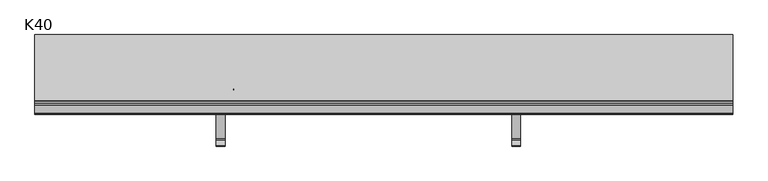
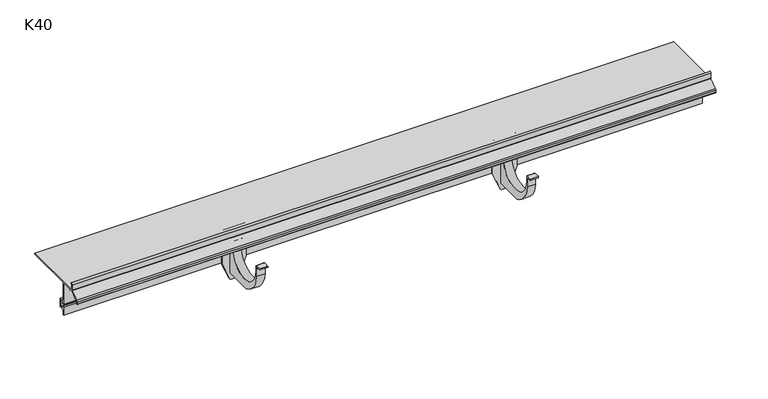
"""IFC4 building model written with IfcOpenShell, lengths in millimetres: proxy geometry, K40 Profil okapowy prosty z rynną : K40."""

from ifc_helpers import new_model, si_unit, point, frame, frame_2d, origin, place, context, project, spatial, polyline, circle_curve, trimmed, segment, composite_curve, outline, extrude, source, transform, mapped, element, save
from ifc_brep_helpers import plane_surface, cylinder_surface, revolved_surface, advanced_brep


def k40_60f0cadf(model_context):
    return source(origin(), model_context, "Body", "SolidModel", [
        advanced_brep(
        [(806.4889281, -60.209027, -47.7247657), (806.4889281, 14.790973, -47.7247657), (806.4889281, 16.790973, -28.8318799), (806.4889281, 11.3767594, -29.4176589), (806.4889281, 9.9625459, -30.8318724), (806.4889281, 8.5483323, -29.4176589), (806.4889281, 9.9625459, -28.0034453), (806.4889281, 12.790973, -26.8318724), (806.4889281, 22.790973, -26.8318724), (806.4889281, 22.790973, -101.8318724), (806.4889281, -28.209027, -101.8322949), (806.4889281, -62.709027, -57.0416645), (806.4889281, -62.709027, -42.4216441), (806.4889281, -62.709027, -38.8322949), (806.4889281, -71.209027, -38.8322949), (806.4889281, -71.209027, -36.8322949), (806.4889281, -61.209027, -36.8322949), (806.4889281, -60.209027, -37.8322949), (821.4889281, -60.209027, -47.7247657), (821.4889281, -60.209027, -37.8322949), (821.4889281, -61.209027, -36.8322949), (821.4889281, -71.209027, -36.8322949), (821.4889281, -71.209027, -38.8322949), (821.4889281, -62.709027, -38.8322949), (821.4889281, -62.709027, -42.4216441), (821.4889281, -62.709027, -57.0416645), (821.4889281, -28.209027, -101.8322949), (821.4889281, 22.790973, -101.8318724), (821.4889281, 22.790973, -26.8318724), (821.4889281, 12.790973, -26.8318724), (821.4889281, 9.9625459, -28.0034453), (821.4889281, 8.5483323, -29.4176589), (821.4889281, 9.9625459, -30.8318724), (821.4889281, 11.3767594, -29.4176589), (821.4889281, 16.790973, -28.8318799), (821.4889281, 14.790973, -47.7247657), (833.4889281, 22.790973, -13.8318724), (794.4889281, 22.790973, -13.8318724), (791.4889281, 22.790973, -16.8318724), (791.4889281, 22.790973, -78.8318724), (805.7196973, 22.790973, -112.9857186), (808.4889281, 22.790973, -114.8318724), (819.4889281, 22.790973, -114.8318724), (822.2581588, 22.790973, -112.9857186), (836.4889281, 22.790973, -78.8318724), (836.4889281, 22.790973, -16.8318724), (833.4889281, 24.790973, -13.8318724), (836.4889281, 24.790973, -16.8318724), (836.4889281, 24.790973, -78.8318724), (822.2581588, 24.790973, -112.9857186), (819.4889281, 24.790973, -114.8318724), (808.4889281, 24.790973, -114.8318724), (805.7196973, 24.790973, -112.9857186), (791.4889281, 24.790973, -78.8318724), (791.4889281, 24.790973, -16.8318724), (794.4889281, 24.790973, -13.8318724)],
        [
            (0, 1, circle_curve(frame((806.4889281, -22.709027, -47.7247657), z_axis=(1.0, 0.0, 0.0), x_axis=(0.0, -1.0, 0.0)), 37.5)),
            (1, 2),
            (2, 3, circle_curve(frame((806.4889281, 15.9516361, -46.3881144), z_axis=(1.0, 0.0, 0.0), x_axis=(0.0, -1.0, 0.0)), 17.5762868)),
            (3, 4),
            (4, 5, circle_curve(frame((806.4889281, 9.2554391, -30.1247657), z_axis=(-1.0, 0.0, 0.0), x_axis=(0.0, -1.0, 0.0)), 1.0)),
            (5, 6),
            (6, 7, circle_curve(frame((806.4889281, 12.790973, -30.8318724), z_axis=(-1.0, 0.0, 0.0), x_axis=(0.0, -1.0, 0.0)), 4.0)),
            (7, 8),
            (8, 9),
            (9, 10),
            (10, 11, circle_curve(frame((806.4889281, -10.0286874, -52.1467472), z_axis=(-1.0, 0.0, 0.0), x_axis=(0.0, -1.0, 0.0)), 52.9072622)),
            (11, 12),
            (12, 13),
            (13, 14),
            (14, 15, circle_curve(frame((806.4889281, -71.209027, -37.8322949), z_axis=(-1.0, 0.0, 0.0), x_axis=(0.0, -1.0, 0.0)), 1.0)),
            (15, 16),
            (16, 17, circle_curve(frame((806.4889281, -61.209027, -37.8322949), z_axis=(-1.0, 0.0, 0.0), x_axis=(0.0, -1.0, 0.0)), 1.0)),
            (17, 0),
            (18, 19),
            (19, 20, circle_curve(frame((821.4889281, -61.209027, -37.8322949), z_axis=(1.0, 0.0, 0.0), x_axis=(0.0, -1.0, 0.0)), 1.0)),
            (20, 21),
            (21, 22, circle_curve(frame((821.4889281, -71.209027, -37.8322949), z_axis=(1.0, 0.0, 0.0), x_axis=(0.0, -1.0, 0.0)), 1.0)),
            (22, 23),
            (23, 24),
            (24, 25),
            (25, 26, circle_curve(frame((821.4889281, -10.0286874, -52.1467472), z_axis=(1.0, 0.0, 0.0), x_axis=(0.0, -1.0, 0.0)), 52.9072622)),
            (26, 27),
            (27, 28),
            (28, 29),
            (29, 30, circle_curve(frame((821.4889281, 12.790973, -30.8318724), z_axis=(1.0, 0.0, 0.0), x_axis=(0.0, -1.0, 0.0)), 4.0)),
            (30, 31),
            (31, 32, circle_curve(frame((821.4889281, 9.2554391, -30.1247657), z_axis=(1.0, 0.0, 0.0), x_axis=(0.0, -1.0, 0.0)), 1.0)),
            (32, 33),
            (33, 34, circle_curve(frame((821.4889281, 15.9516361, -46.3881144), z_axis=(-1.0, 0.0, 0.0), x_axis=(0.0, -1.0, 0.0)), 17.5762868)),
            (34, 35),
            (35, 18, circle_curve(frame((821.4889281, -22.709027, -47.7247657), z_axis=(-1.0, 0.0, 0.0), x_axis=(0.0, -1.0, 0.0)), 37.5)),
            (17, 19),
            (18, 0),
            (16, 20),
            (15, 21),
            (14, 22),
            (13, 23),
            (12, 24),
            (11, 25),
            (10, 26),
            (9, 27),
            (7, 29),
            (28, 8),
            (6, 30),
            (5, 31),
            (4, 32),
            (3, 33),
            (2, 34),
            (1, 35),
            (36, 37),
            (37, 38, circle_curve(frame((794.4889281, 22.790973, -16.8318724), z_axis=(0.0, -1.0, 0.0), x_axis=(1.0, 0.0, 0.0)), 3.0)),
            (38, 39),
            (39, 40),
            (40, 41, circle_curve(frame((808.4889281, 22.790973, -111.8318724), z_axis=(0.0, -1.0, 0.0), x_axis=(1.0, 0.0, 0.0)), 3.0)),
            (41, 42),
            (42, 43, circle_curve(frame((819.4889281, 22.790973, -111.8318724), z_axis=(0.0, -1.0, 0.0), x_axis=(1.0, 0.0, 0.0)), 3.0)),
            (43, 44),
            (44, 45),
            (45, 36, circle_curve(frame((833.4889281, 22.790973, -16.8318724), z_axis=(0.0, -1.0, 0.0), x_axis=(1.0, 0.0, 0.0)), 3.0)),
            (46, 47, circle_curve(frame((833.4889281, 24.790973, -16.8318724), z_axis=(0.0, 1.0, 0.0), x_axis=(1.0, 0.0, 0.0)), 3.0)),
            (47, 48),
            (48, 49),
            (49, 50, circle_curve(frame((819.4889281, 24.790973, -111.8318724), z_axis=(0.0, 1.0, 0.0), x_axis=(1.0, 0.0, 0.0)), 3.0)),
            (50, 51),
            (51, 52, circle_curve(frame((808.4889281, 24.790973, -111.8318724), z_axis=(0.0, 1.0, 0.0), x_axis=(1.0, 0.0, 0.0)), 3.0)),
            (52, 53),
            (53, 54),
            (54, 55, circle_curve(frame((794.4889281, 24.790973, -16.8318724), z_axis=(0.0, 1.0, 0.0), x_axis=(1.0, 0.0, 0.0)), 3.0)),
            (55, 46),
            (36, 46),
            (55, 37),
            (54, 38),
            (53, 39),
            (52, 40),
            (51, 41),
            (50, 42),
            (49, 43),
            (48, 44),
            (47, 45),
        ],
        [
            plane_surface(frame((806.4889281, -60.209027, -37.8322949), z_axis=(-1.0, 0.0, 0.0), x_axis=(0.0, 0.0, -1.0))),
            plane_surface(frame((821.4889281, -60.209027, -37.8322949), z_axis=(1.0, 0.0, 0.0), x_axis=(0.0, 0.0, 1.0))),
            plane_surface(frame((821.4889281, -60.209027, -47.7247657), z_axis=(0.0, 1.0, 0.0), x_axis=(-1.0, 0.0, 0.0))),
            cylinder_surface(frame((806.4889281, -61.209027, -37.8322949), z_axis=(1.0, 0.0, 0.0), x_axis=(0.0, -1.0, 0.0)), 1.0),
            plane_surface(frame((821.4889281, -61.209027, -36.8322949), z_axis=(0.0, 0.0, 1.0), x_axis=(-1.0, 0.0, 0.0))),
            cylinder_surface(frame((806.4889281, -71.209027, -37.8322949), z_axis=(1.0, 0.0, 0.0), x_axis=(0.0, -1.0, 0.0)), 1.0),
            plane_surface(frame((821.4889281, -71.209027, -38.8322949), z_axis=(0.0, 0.0, -1.0), x_axis=(-1.0, 0.0, 0.0))),
            plane_surface(frame((821.4889281, -62.709027, -38.8322949), z_axis=(0.0, -1.0, 0.0), x_axis=(-1.0, 0.0, 0.0))),
            plane_surface(frame((821.4889281, -62.709027, -42.4216441), z_axis=(0.0, -1.0, 0.0), x_axis=(-1.0, 0.0, 0.0))),
            cylinder_surface(frame((806.4889281, -10.0286874, -52.1467472), z_axis=(1.0, 0.0, 0.0), x_axis=(0.0, -1.0, 0.0)), 52.9072622),
            plane_surface(frame((821.4889281, -28.209027, -101.8322949), z_axis=(0.0, 8.283194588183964e-06, -0.9999999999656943), x_axis=(-1.0, 0.0, 0.0))),
            plane_surface(frame((821.4889281, 23.8342619, -26.8318724), z_axis=(0.0, 0.0, 1.0), x_axis=(-1.0, 0.0, 0.0))),
            cylinder_surface(frame((806.4889281, 12.790973, -30.8318724), z_axis=(1.0, 0.0, 0.0), x_axis=(0.0, -1.0, 0.0)), 4.0),
            plane_surface(frame((821.4889281, 9.9625459, -28.0034453), z_axis=(0.0, -0.7071067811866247, 0.7071067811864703), x_axis=(-1.0, 0.0, 0.0))),
            cylinder_surface(frame((806.4889281, 9.2554391, -30.1247657), z_axis=(1.0, 0.0, 0.0), x_axis=(0.0, -1.0, 0.0)), 1.0),
            plane_surface(frame((821.4889281, 9.9625459, -30.8318724), z_axis=(0.0, 0.7071067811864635, -0.7071067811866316), x_axis=(-1.0, 0.0, 0.0))),
            revolved_surface(polyline([(806.4889281, -1.6246506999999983, -46.3881144), (821.4889281, -1.6246506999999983, -46.3881144)]), (806.4889281, 15.9516361, -46.3881144), (-1.0, 0.0, 0.0)),
            plane_surface(frame((821.4889281, 16.790973, -28.8318799), z_axis=(0.0, -0.9944434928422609, 0.10527174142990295), x_axis=(-1.0, 0.0, 0.0))),
            revolved_surface(polyline([(806.4889281, -60.209027, -47.7247657), (821.4889281, -60.209027, -47.7247657)]), (806.4889281, -22.709027, -47.7247657), (-1.0, 0.0, 0.0)),
            plane_surface(frame((794.4889281, 22.790973, -13.8318724), z_axis=(0.0, -1.0, 0.0), x_axis=(-1.0, 0.0, 0.0))),
            plane_surface(frame((794.4889281, 24.790973, -13.8318724), z_axis=(0.0, 1.0, 0.0), x_axis=(1.0, 0.0, 0.0))),
            plane_surface(frame((833.4889281, 22.790973, -13.8318724), z_axis=(0.0, 0.0, 1.0), x_axis=(0.0, 1.0, 0.0))),
            cylinder_surface(frame((794.4889281, 24.790973, -16.8318724), z_axis=(0.0, -1.0, 0.0), x_axis=(1.0, 0.0, 0.0)), 3.0),
            plane_surface(frame((791.4889281, 22.790973, -16.8318724), z_axis=(-1.0, 0.0, 0.0), x_axis=(0.0, 1.0, 0.0))),
            plane_surface(frame((791.4889281, 22.790973, -78.8318724), z_axis=(-0.9230769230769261, 0.0, -0.38461538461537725), x_axis=(0.0, 1.0, 0.0))),
            cylinder_surface(frame((808.4889281, 24.790973, -111.8318724), z_axis=(0.0, -1.0, 0.0), x_axis=(1.0, 0.0, 0.0)), 3.0),
            plane_surface(frame((808.4889281, 22.790973, -114.8318724), z_axis=(0.0, 0.0, -1.0), x_axis=(0.0, 1.0, 0.0))),
            cylinder_surface(frame((819.4889281, 24.790973, -111.8318724), z_axis=(0.0, -1.0, 0.0), x_axis=(1.0, 0.0, 0.0)), 3.0),
            plane_surface(frame((822.2581588, 22.790973, -112.9857186), z_axis=(0.9230769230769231, 0.0, -0.3846153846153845), x_axis=(0.0, 1.0, 0.0))),
            plane_surface(frame((836.4889281, 22.790973, -78.8318724), z_axis=(1.0, 0.0, 0.0), x_axis=(0.0, 1.0, 0.0))),
            cylinder_surface(frame((833.4889281, 24.790973, -16.8318724), z_axis=(0.0, -1.0, 0.0), x_axis=(1.0, 0.0, 0.0)), 3.0),
        ],
        [
            (0, [[1, 2, 3, 4, 5, 6, 7, 8, 9, 10, 11, 12, 13, 14, 15, 16, 17, 18]]),
            (1, [[19, 20, 21, 22, 23, 24, 25, 26, 27, 28, 29, 30, 31, 32, 33, 34, 35, 36]]),
            (2, [[-18, 37, -19, 38]]),
            (3, [[-17, 39, -20, -37]]),
            (4, [[-16, 40, -21, -39]]),
            (5, [[-15, 41, -22, -40]]),
            (6, [[-14, 42, -23, -41]]),
            (7, [[-13, 43, -24, -42]]),
            (8, [[-12, 44, -25, -43]]),
            (9, [[-11, 45, -26, -44]]),
            (10, [[-45, -10, 46, -27]]),
            (11, [[47, -29, 48, -8]]),
            (12, [[-7, 49, -30, -47]]),
            (13, [[-6, 50, -31, -49]]),
            (14, [[-5, 51, -32, -50]]),
            (15, [[-4, 52, -33, -51]]),
            (16, [[-3, 53, -34, -52]]),
            (17, [[-2, 54, -35, -53]]),
            (18, [[-1, -38, -36, -54]]),
            (19, [[55, 56, 57, 58, 59, 60, 61, 62, 63, 64], [-9, -48, -28, -46]]),
            (20, [[65, 66, 67, 68, 69, 70, 71, 72, 73, 74]]),
            (21, [[-55, 75, -74, 76]]),
            (22, [[-56, -76, -73, 77]]),
            (23, [[-57, -77, -72, 78]]),
            (24, [[-58, -78, -71, 79]]),
            (25, [[-59, -79, -70, 80]]),
            (26, [[-60, -80, -69, 81]]),
            (27, [[-61, -81, -68, 82]]),
            (28, [[-62, -82, -67, 83]]),
            (29, [[-63, -83, -66, 84]]),
            (30, [[-64, -84, -65, -75]]),
        ],
    ),
        advanced_brep(
        [(306.4889281, -60.209027, -47.7247657), (306.4889281, 14.790973, -47.7247657), (306.4889281, 16.790973, -28.8318799), (306.4889281, 11.3767594, -29.4176589), (306.4889281, 9.9625459, -30.8318724), (306.4889281, 8.5483323, -29.4176589), (306.4889281, 9.9625459, -28.0034453), (306.4889281, 12.790973, -26.8318724), (306.4889281, 22.790973, -26.8318724), (306.4889281, 22.790973, -101.8318724), (306.4889281, -28.209027, -101.8322949), (306.4889281, -62.709027, -57.0416645), (306.4889281, -62.709027, -42.4216441), (306.4889281, -62.709027, -38.8322949), (306.4889281, -71.209027, -38.8322949), (306.4889281, -71.209027, -36.8322949), (306.4889281, -61.209027, -36.8322949), (306.4889281, -60.209027, -37.8322949), (321.4889281, -60.209027, -47.7247657), (321.4889281, -60.209027, -37.8322949), (321.4889281, -61.209027, -36.8322949), (321.4889281, -71.209027, -36.8322949), (321.4889281, -71.209027, -38.8322949), (321.4889281, -62.709027, -38.8322949), (321.4889281, -62.709027, -42.4216441), (321.4889281, -62.709027, -57.0416645), (321.4889281, -28.209027, -101.8322949), (321.4889281, 22.790973, -101.8318724), (321.4889281, 22.790973, -26.8318724), (321.4889281, 12.790973, -26.8318724), (321.4889281, 9.9625459, -28.0034453), (321.4889281, 8.5483323, -29.4176589), (321.4889281, 9.9625459, -30.8318724), (321.4889281, 11.3767594, -29.4176589), (321.4889281, 16.790973, -28.8318799), (321.4889281, 14.790973, -47.7247657), (333.4889281, 22.790973, -13.8318724), (294.4889281, 22.790973, -13.8318724), (291.4889281, 22.790973, -16.8318724), (291.4889281, 22.790973, -78.8318724), (305.7196973, 22.790973, -112.9857186), (308.4889281, 22.790973, -114.8318724), (319.4889281, 22.790973, -114.8318724), (322.2581588, 22.790973, -112.9857186), (336.4889281, 22.790973, -78.8318724), (336.4889281, 22.790973, -16.8318724), (333.4889281, 24.790973, -13.8318724), (336.4889281, 24.790973, -16.8318724), (336.4889281, 24.790973, -78.8318724), (322.2581588, 24.790973, -112.9857186), (319.4889281, 24.790973, -114.8318724), (308.4889281, 24.790973, -114.8318724), (305.7196973, 24.790973, -112.9857186), (291.4889281, 24.790973, -78.8318724), (291.4889281, 24.790973, -16.8318724), (294.4889281, 24.790973, -13.8318724)],
        [
            (0, 1, circle_curve(frame((306.4889281, -22.709027, -47.7247657), z_axis=(1.0, 0.0, 0.0), x_axis=(0.0, -1.0, 0.0)), 37.5)),
            (1, 2),
            (2, 3, circle_curve(frame((306.4889281, 15.9516361, -46.3881144), z_axis=(1.0, 0.0, 0.0), x_axis=(0.0, -1.0, 0.0)), 17.5762868)),
            (3, 4),
            (4, 5, circle_curve(frame((306.4889281, 9.2554391, -30.1247657), z_axis=(-1.0, 0.0, 0.0), x_axis=(0.0, -1.0, 0.0)), 1.0)),
            (5, 6),
            (6, 7, circle_curve(frame((306.4889281, 12.790973, -30.8318724), z_axis=(-1.0, 0.0, 0.0), x_axis=(0.0, -1.0, 0.0)), 4.0)),
            (7, 8),
            (8, 9),
            (9, 10),
            (10, 11, circle_curve(frame((306.4889281, -10.0286874, -52.1467472), z_axis=(-1.0, 0.0, 0.0), x_axis=(0.0, -1.0, 0.0)), 52.9072622)),
            (11, 12),
            (12, 13),
            (13, 14),
            (14, 15, circle_curve(frame((306.4889281, -71.209027, -37.8322949), z_axis=(-1.0, 0.0, 0.0), x_axis=(0.0, -1.0, 0.0)), 1.0)),
            (15, 16),
            (16, 17, circle_curve(frame((306.4889281, -61.209027, -37.8322949), z_axis=(-1.0, 0.0, 0.0), x_axis=(0.0, -1.0, 0.0)), 1.0)),
            (17, 0),
            (18, 19),
            (19, 20, circle_curve(frame((321.4889281, -61.209027, -37.8322949), z_axis=(1.0, 0.0, 0.0), x_axis=(0.0, -1.0, 0.0)), 1.0)),
            (20, 21),
            (21, 22, circle_curve(frame((321.4889281, -71.209027, -37.8322949), z_axis=(1.0, 0.0, 0.0), x_axis=(0.0, -1.0, 0.0)), 1.0)),
            (22, 23),
            (23, 24),
            (24, 25),
            (25, 26, circle_curve(frame((321.4889281, -10.0286874, -52.1467472), z_axis=(1.0, 0.0, 0.0), x_axis=(0.0, -1.0, 0.0)), 52.9072622)),
            (26, 27),
            (27, 28),
            (28, 29),
            (29, 30, circle_curve(frame((321.4889281, 12.790973, -30.8318724), z_axis=(1.0, 0.0, 0.0), x_axis=(0.0, -1.0, 0.0)), 4.0)),
            (30, 31),
            (31, 32, circle_curve(frame((321.4889281, 9.2554391, -30.1247657), z_axis=(1.0, 0.0, 0.0), x_axis=(0.0, -1.0, 0.0)), 1.0)),
            (32, 33),
            (33, 34, circle_curve(frame((321.4889281, 15.9516361, -46.3881144), z_axis=(-1.0, 0.0, 0.0), x_axis=(0.0, -1.0, 0.0)), 17.5762868)),
            (34, 35),
            (35, 18, circle_curve(frame((321.4889281, -22.709027, -47.7247657), z_axis=(-1.0, 0.0, 0.0), x_axis=(0.0, -1.0, 0.0)), 37.5)),
            (17, 19),
            (18, 0),
            (16, 20),
            (15, 21),
            (14, 22),
            (13, 23),
            (12, 24),
            (11, 25),
            (10, 26),
            (9, 27),
            (7, 29),
            (28, 8),
            (6, 30),
            (5, 31),
            (4, 32),
            (3, 33),
            (2, 34),
            (1, 35),
            (36, 37),
            (37, 38, circle_curve(frame((294.4889281, 22.790973, -16.8318724), z_axis=(0.0, -1.0, 0.0), x_axis=(1.0, 0.0, 0.0)), 3.0)),
            (38, 39),
            (39, 40),
            (40, 41, circle_curve(frame((308.4889281, 22.790973, -111.8318724), z_axis=(0.0, -1.0, 0.0), x_axis=(1.0, 0.0, 0.0)), 3.0)),
            (41, 42),
            (42, 43, circle_curve(frame((319.4889281, 22.790973, -111.8318724), z_axis=(0.0, -1.0, 0.0), x_axis=(1.0, 0.0, 0.0)), 3.0)),
            (43, 44),
            (44, 45),
            (45, 36, circle_curve(frame((333.4889281, 22.790973, -16.8318724), z_axis=(0.0, -1.0, 0.0), x_axis=(1.0, 0.0, 0.0)), 3.0)),
            (46, 47, circle_curve(frame((333.4889281, 24.790973, -16.8318724), z_axis=(0.0, 1.0, 0.0), x_axis=(1.0, 0.0, 0.0)), 3.0)),
            (47, 48),
            (48, 49),
            (49, 50, circle_curve(frame((319.4889281, 24.790973, -111.8318724), z_axis=(0.0, 1.0, 0.0), x_axis=(1.0, 0.0, 0.0)), 3.0)),
            (50, 51),
            (51, 52, circle_curve(frame((308.4889281, 24.790973, -111.8318724), z_axis=(0.0, 1.0, 0.0), x_axis=(1.0, 0.0, 0.0)), 3.0)),
            (52, 53),
            (53, 54),
            (54, 55, circle_curve(frame((294.4889281, 24.790973, -16.8318724), z_axis=(0.0, 1.0, 0.0), x_axis=(1.0, 0.0, 0.0)), 3.0)),
            (55, 46),
            (36, 46),
            (55, 37),
            (54, 38),
            (53, 39),
            (52, 40),
            (51, 41),
            (50, 42),
            (49, 43),
            (48, 44),
            (47, 45),
        ],
        [
            plane_surface(frame((306.4889281, -60.209027, -37.8322949), z_axis=(-1.0, 0.0, 0.0), x_axis=(0.0, 0.0, -1.0))),
            plane_surface(frame((321.4889281, -60.209027, -37.8322949), z_axis=(1.0, 0.0, 0.0), x_axis=(0.0, 0.0, 1.0))),
            plane_surface(frame((321.4889281, -60.209027, -47.7247657), z_axis=(0.0, 1.0, 0.0), x_axis=(-1.0, 0.0, 0.0))),
            cylinder_surface(frame((306.4889281, -61.209027, -37.8322949), z_axis=(1.0, 0.0, 0.0), x_axis=(0.0, -1.0, 0.0)), 1.0),
            plane_surface(frame((321.4889281, -61.209027, -36.8322949), z_axis=(0.0, 0.0, 1.0), x_axis=(-1.0, 0.0, 0.0))),
            cylinder_surface(frame((306.4889281, -71.209027, -37.8322949), z_axis=(1.0, 0.0, 0.0), x_axis=(0.0, -1.0, 0.0)), 1.0),
            plane_surface(frame((321.4889281, -71.209027, -38.8322949), z_axis=(0.0, 0.0, -1.0), x_axis=(-1.0, 0.0, 0.0))),
            plane_surface(frame((321.4889281, -62.709027, -38.8322949), z_axis=(0.0, -1.0, 0.0), x_axis=(-1.0, 0.0, 0.0))),
            plane_surface(frame((321.4889281, -62.709027, -42.4216441), z_axis=(0.0, -1.0, 0.0), x_axis=(-1.0, 0.0, 0.0))),
            cylinder_surface(frame((306.4889281, -10.0286874, -52.1467472), z_axis=(1.0, 0.0, 0.0), x_axis=(0.0, -1.0, 0.0)), 52.9072622),
            plane_surface(frame((321.4889281, -28.209027, -101.8322949), z_axis=(0.0, 8.283194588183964e-06, -0.9999999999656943), x_axis=(-1.0, 0.0, 0.0))),
            plane_surface(frame((321.4889281, 23.8342619, -26.8318724), z_axis=(0.0, 0.0, 1.0), x_axis=(-1.0, 0.0, 0.0))),
            cylinder_surface(frame((306.4889281, 12.790973, -30.8318724), z_axis=(1.0, 0.0, 0.0), x_axis=(0.0, -1.0, 0.0)), 4.0),
            plane_surface(frame((321.4889281, 9.9625459, -28.0034453), z_axis=(0.0, -0.7071067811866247, 0.7071067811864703), x_axis=(-1.0, 0.0, 0.0))),
            cylinder_surface(frame((306.4889281, 9.2554391, -30.1247657), z_axis=(1.0, 0.0, 0.0), x_axis=(0.0, -1.0, 0.0)), 1.0),
            plane_surface(frame((321.4889281, 9.9625459, -30.8318724), z_axis=(0.0, 0.7071067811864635, -0.7071067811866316), x_axis=(-1.0, 0.0, 0.0))),
            revolved_surface(polyline([(306.4889281, -1.6246506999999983, -46.3881144), (321.4889281, -1.6246506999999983, -46.3881144)]), (306.4889281, 15.9516361, -46.3881144), (-1.0, 0.0, 0.0)),
            plane_surface(frame((321.4889281, 16.790973, -28.8318799), z_axis=(0.0, -0.9944434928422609, 0.10527174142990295), x_axis=(-1.0, 0.0, 0.0))),
            revolved_surface(polyline([(306.4889281, -60.209027, -47.7247657), (321.4889281, -60.209027, -47.7247657)]), (306.4889281, -22.709027, -47.7247657), (-1.0, 0.0, 0.0)),
            plane_surface(frame((294.4889281, 22.790973, -13.8318724), z_axis=(0.0, -1.0, 0.0), x_axis=(-1.0, 0.0, 0.0))),
            plane_surface(frame((294.4889281, 24.790973, -13.8318724), z_axis=(0.0, 1.0, 0.0), x_axis=(1.0, 0.0, 0.0))),
            plane_surface(frame((333.4889281, 22.790973, -13.8318724), z_axis=(0.0, 0.0, 1.0), x_axis=(0.0, 1.0, 0.0))),
            cylinder_surface(frame((294.4889281, 24.790973, -16.8318724), z_axis=(0.0, -1.0, 0.0), x_axis=(1.0, 0.0, 0.0)), 3.0),
            plane_surface(frame((291.4889281, 22.790973, -16.8318724), z_axis=(-1.0, 0.0, 0.0), x_axis=(0.0, 1.0, 0.0))),
            plane_surface(frame((291.4889281, 22.790973, -78.8318724), z_axis=(-0.9230769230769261, 0.0, -0.38461538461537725), x_axis=(0.0, 1.0, 0.0))),
            cylinder_surface(frame((308.4889281, 24.790973, -111.8318724), z_axis=(0.0, -1.0, 0.0), x_axis=(1.0, 0.0, 0.0)), 3.0),
            plane_surface(frame((308.4889281, 22.790973, -114.8318724), z_axis=(0.0, 0.0, -1.0), x_axis=(0.0, 1.0, 0.0))),
            cylinder_surface(frame((319.4889281, 24.790973, -111.8318724), z_axis=(0.0, -1.0, 0.0), x_axis=(1.0, 0.0, 0.0)), 3.0),
            plane_surface(frame((322.2581588, 22.790973, -112.9857186), z_axis=(0.9230769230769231, 0.0, -0.3846153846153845), x_axis=(0.0, 1.0, 0.0))),
            plane_surface(frame((336.4889281, 22.790973, -78.8318724), z_axis=(1.0, 0.0, 0.0), x_axis=(0.0, 1.0, 0.0))),
            cylinder_surface(frame((333.4889281, 24.790973, -16.8318724), z_axis=(0.0, -1.0, 0.0), x_axis=(1.0, 0.0, 0.0)), 3.0),
        ],
        [
            (0, [[1, 2, 3, 4, 5, 6, 7, 8, 9, 10, 11, 12, 13, 14, 15, 16, 17, 18]]),
            (1, [[19, 20, 21, 22, 23, 24, 25, 26, 27, 28, 29, 30, 31, 32, 33, 34, 35, 36]]),
            (2, [[-18, 37, -19, 38]]),
            (3, [[-17, 39, -20, -37]]),
            (4, [[-16, 40, -21, -39]]),
            (5, [[-15, 41, -22, -40]]),
            (6, [[-14, 42, -23, -41]]),
            (7, [[-13, 43, -24, -42]]),
            (8, [[-12, 44, -25, -43]]),
            (9, [[-11, 45, -26, -44]]),
            (10, [[-45, -10, 46, -27]]),
            (11, [[47, -29, 48, -8]]),
            (12, [[-7, 49, -30, -47]]),
            (13, [[-6, 50, -31, -49]]),
            (14, [[-5, 51, -32, -50]]),
            (15, [[-4, 52, -33, -51]]),
            (16, [[-3, 53, -34, -52]]),
            (17, [[-2, 54, -35, -53]]),
            (18, [[-1, -38, -36, -54]]),
            (19, [[55, 56, 57, 58, 59, 60, 61, 62, 63, 64], [-9, -48, -28, -46]]),
            (20, [[65, 66, 67, 68, 69, 70, 71, 72, 73, 74]]),
            (21, [[-55, 75, -74, 76]]),
            (22, [[-56, -76, -73, 77]]),
            (23, [[-57, -77, -72, 78]]),
            (24, [[-58, -78, -71, 79]]),
            (25, [[-59, -79, -70, 80]]),
            (26, [[-60, -80, -69, 81]]),
            (27, [[-61, -81, -68, 82]]),
            (28, [[-62, -82, -67, 83]]),
            (29, [[-63, -83, -66, 84]]),
            (30, [[-64, -84, -65, -75]]),
        ],
    ),
        extrude(outline(composite_curve([segment(polyline([(24.790973, -57.0495867), (24.790973, -15.0820716), (5.0997493, -15.0820716), (5.0920266, -17.1021433), (4.0927202, -17.1065163), (4.1008046, -15.0820716), (-2.4887219, -15.0820716), (-15.7425283, -25.4001621)]), True, "CONTINUOUS"), segment(trimmed(circle_curve(frame_2d((-14.529488, -26.9902983)), 2.0), [point((-15.7425283, -25.4001621))], [point((-16.5294511, -27.0024549))], True, "CARTESIAN"), True, "CONTINUOUS"), segment(polyline([(-16.5294511, -27.0024549), (-16.5085763, -30.4367198)]), True, "CONTINUOUS"), segment(trimmed(circle_curve(frame_2d((-17.3591685, -30.3418882)), 0.8558621), [point((-16.5085763, -30.4367198))], [point((-18.2085449, -30.4470529))], False, "CARTESIAN"), True, "CONTINUOUS"), segment(polyline([(-18.2085449, -30.4470529), (-18.2315415, -26.6637113)]), True, "CONTINUOUS"), segment(trimmed(circle_curve(frame_2d((-15.2315969, -26.6454765)), 3.0), [point((-18.2315415, -26.6637113))], [point((-17.0511573, -24.2602721))], False, "CARTESIAN"), True, "CONTINUOUS"), segment(polyline([(-17.0511573, -24.2602721), (-3.1518737, -13.3523721)]), True, "CONTINUOUS"), segment(trimmed(circle_curve(frame_2d((-4.1173519, -12.3385419)), 1.4), [point((-3.1518737, -13.3523721))], [point((-2.7242139, -12.4769853))], True, "CARTESIAN"), True, "CONTINUOUS"), segment(polyline([(-2.7242139, -12.4769853), (-2.7829292, -2.8169668)]), True, "CONTINUOUS"), segment(trimmed(circle_curve(frame_2d((0.0170191, -2.7999483)), 2.8), [point((-2.7829292, -2.8169668))], [point((0.0, 0.0))], False, "CARTESIAN"), True, "CONTINUOUS"), segment(polyline([(0.0, 0.0), (0.0109399, -1.7998068)]), True, "CONTINUOUS"), segment(trimmed(circle_curve(frame_2d((0.0120135, -2.7877506)), 0.9879444), [point((0.0109399, -1.7998068))], [point((-0.9757443, -2.7685501))], True, "CARTESIAN"), True, "CONTINUOUS"), segment(polyline([(-0.9757443, -2.7685501), (-0.9115875, -13.3289895), (116.4889281, -13.3289895), (116.4889281, -15.0820716), (26.3208839, -15.0820716), (26.3208839, -51.2995887), (35.5016753, -51.2995887), (35.5016753, -68.292524), (26.5440554, -68.292524), (26.5440554, -78.1012637), (24.8312026, -78.1012637), (24.8312026, -62.5508482), (27.3339394, -62.5508482), (27.3339394, -66.7941249), (33.8031079, -66.7941249), (33.8031079, -52.7987457), (27.3231899, -52.7987457), (27.3231899, -57.0495867), (24.790973, -57.0495867)]), True, "CONTINUOUS")], self_intersect=False)), frame((0.0, 0.0, 0.0), z_axis=(1.0, 0.0, 0.0), x_axis=(0.0, 1.0, 0.0)), (0.0, 0.0, 1.0), 1180.0),
    ])


if __name__ == "__main__":
    model = new_model("IFC4")
    model_context = context("Model", 3, world=origin())
    ifc_project = project(units=[si_unit("LENGTHUNIT", "METRE", prefix="MILLI")], contexts=[model_context])
    site = spatial("IfcSite", under=ifc_project)
    building = spatial("IfcBuilding", under=site)
    placement = place(None, origin())
    k40_shape = k40_60f0cadf(model_context)
    element("IfcBuildingElementProxy", 1, Name="K40 Profil okapowy prosty z rynną : K40", ObjectType="K40 Profil okapowy prosty z rynną : K40", at=placement, inside=building, context=model_context, shape_type="MappedRepresentation", body=[
        mapped(k40_shape, transform((0.0, 0.0, 0.0), x_axis=(1.0, 0.0, 0.0), y_axis=(0.0, 1.0, 0.0), z_axis=(0.0, 0.0, 1.0))),
    ])
    save(model, "model.ifc")
